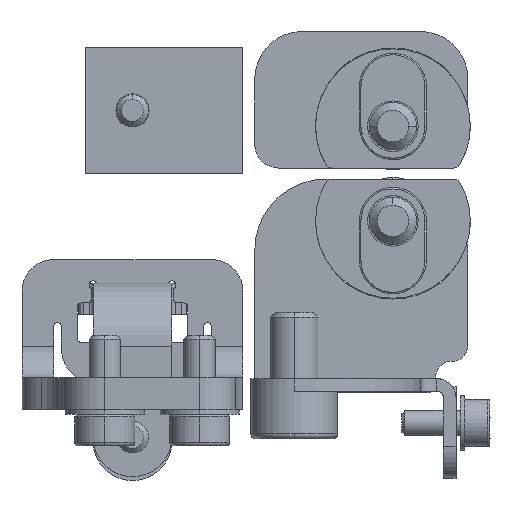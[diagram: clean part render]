
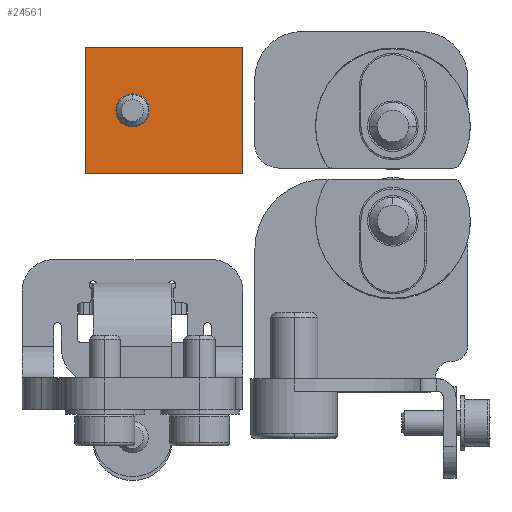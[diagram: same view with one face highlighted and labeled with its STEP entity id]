
A CAD part, left-side view. The second image highlights one B-rep face of the part: STEP entity #24561.
In plain terms, the highlighted planar face has unit normal (-1, 0, 0).
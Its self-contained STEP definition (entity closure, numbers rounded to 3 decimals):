
#576 = PLANE ( 'NONE',  #4126 ) ;
#1527 = CARTESIAN_POINT ( 'NONE',  ( 20., -9., 8. ) ) ;
#2306 = DIRECTION ( 'NONE',  ( -1., 0., 0. ) ) ;
#2414 = VERTEX_POINT ( 'NONE', #24736 ) ;
#2451 = EDGE_CURVE ( 'NONE', #13050, #21597, #22620, .T. ) ;
#2507 = DIRECTION ( 'NONE',  ( 0., 1., 0. ) ) ;
#2611 = CARTESIAN_POINT ( 'NONE',  ( 20., -9., 8. ) ) ;
#2832 = ORIENTED_EDGE ( 'NONE', *, *, #6745, .T. ) ;
#3218 = VECTOR ( 'NONE', #17108, 1000. ) ;
#3538 = CIRCLE ( 'NONE', #12895, 1.05 ) ;
#3560 = CARTESIAN_POINT ( 'NONE',  ( 20., -19., 0. ) ) ;
#3878 = EDGE_LOOP ( 'NONE', ( #20802, #7716 ) ) ;
#4033 = VECTOR ( 'NONE', #9098, 1000. ) ;
#4126 = AXIS2_PLACEMENT_3D ( 'NONE', #23059, #9630, #25313 ) ;
#4404 = ORIENTED_EDGE ( 'NONE', *, *, #2451, .T. ) ;
#5711 = LINE ( 'NONE', #9781, #17542 ) ;
#5998 = EDGE_CURVE ( 'NONE', #22076, #2414, #3538, .T. ) ;
#6328 = FACE_OUTER_BOUND ( 'NONE', #22799, .T. ) ;
#6543 = DIRECTION ( 'NONE',  ( -1., 0., 0. ) ) ;
#6745 = EDGE_CURVE ( 'NONE', #17356, #13050, #27163, .T. ) ;
#6779 = ORIENTED_EDGE ( 'NONE', *, *, #26790, .F. ) ;
#7567 = VECTOR ( 'NONE', #2507, 1000. ) ;
#7613 = ORIENTED_EDGE ( 'NONE', *, *, #10706, .T. ) ;
#7716 = ORIENTED_EDGE ( 'NONE', *, *, #16947, .F. ) ;
#8825 = CARTESIAN_POINT ( 'NONE',  ( 20., -10.95, 4. ) ) ;
#9098 = DIRECTION ( 'NONE',  ( 0., 0., 1. ) ) ;
#9630 = DIRECTION ( 'NONE',  ( 1., 0., 0. ) ) ;
#9781 = CARTESIAN_POINT ( 'NONE',  ( 20., -14., 0. ) ) ;
#10437 = CARTESIAN_POINT ( 'NONE',  ( 20., -19., 8. ) ) ;
#10706 = EDGE_CURVE ( 'NONE', #21597, #26384, #20337, .T. ) ;
#11074 = CARTESIAN_POINT ( 'NONE',  ( 20., -9., 8. ) ) ;
#11508 = FACE_BOUND ( 'NONE', #3878, .T. ) ;
#12667 = AXIS2_PLACEMENT_3D ( 'NONE', #19886, #6543, #22153 ) ;
#12895 = AXIS2_PLACEMENT_3D ( 'NONE', #15686, #2306, #17907 ) ;
#13050 = VERTEX_POINT ( 'NONE', #10437 ) ;
#15686 = CARTESIAN_POINT ( 'NONE',  ( 20., -12., 4. ) ) ;
#16947 = EDGE_CURVE ( 'NONE', #2414, #22076, #21615, .T. ) ;
#17108 = DIRECTION ( 'NONE',  ( 0., 0., -1. ) ) ;
#17356 = VERTEX_POINT ( 'NONE', #3560 ) ;
#17542 = VECTOR ( 'NONE', #25469, 1000. ) ;
#17907 = DIRECTION ( 'NONE',  ( 0., 1., 0. ) ) ;
#19886 = CARTESIAN_POINT ( 'NONE',  ( 20., -12., 4. ) ) ;
#20337 = LINE ( 'NONE', #1527, #3218 ) ;
#20802 = ORIENTED_EDGE ( 'NONE', *, *, #5998, .F. ) ;
#21525 = CARTESIAN_POINT ( 'NONE',  ( 20., -9., 0. ) ) ;
#21597 = VERTEX_POINT ( 'NONE', #11074 ) ;
#21615 = CIRCLE ( 'NONE', #12667, 1.05 ) ;
#22076 = VERTEX_POINT ( 'NONE', #8825 ) ;
#22153 = DIRECTION ( 'NONE',  ( 0., 1., 0. ) ) ;
#22620 = LINE ( 'NONE', #2611, #7567 ) ;
#22799 = EDGE_LOOP ( 'NONE', ( #2832, #4404, #7613, #6779 ) ) ;
#23059 = CARTESIAN_POINT ( 'NONE',  ( 20., -14., 4. ) ) ;
#24561 = ADVANCED_FACE ( 'NONE', ( #6328, #11508 ), #576, .F. ) ;
#24736 = CARTESIAN_POINT ( 'NONE',  ( 20., -13.05, 4. ) ) ;
#24782 = CARTESIAN_POINT ( 'NONE',  ( 20., -19., 8. ) ) ;
#25313 = DIRECTION ( 'NONE',  ( 0., 1., 0. ) ) ;
#25469 = DIRECTION ( 'NONE',  ( 0., 1., 0. ) ) ;
#26384 = VERTEX_POINT ( 'NONE', #21525 ) ;
#26790 = EDGE_CURVE ( 'NONE', #17356, #26384, #5711, .T. ) ;
#27163 = LINE ( 'NONE', #24782, #4033 ) ;
